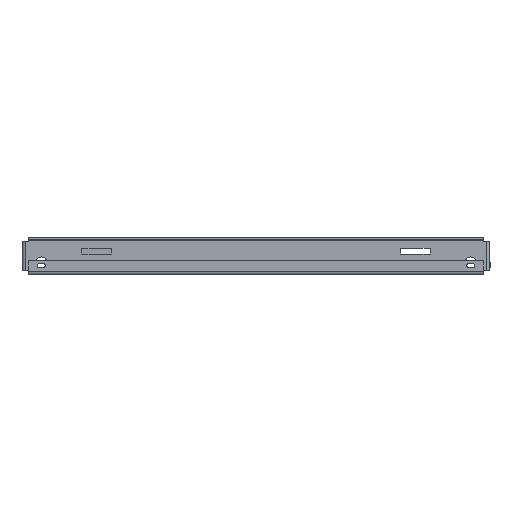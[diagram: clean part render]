
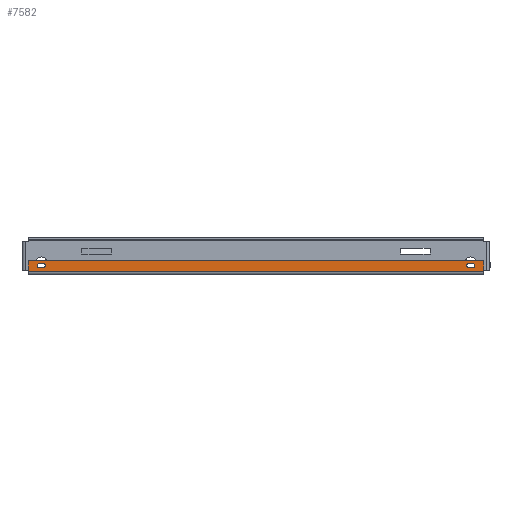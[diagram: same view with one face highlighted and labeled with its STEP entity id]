
A CAD part, front view. The second image highlights one B-rep face of the part: STEP entity #7582.
In plain terms, the highlighted planar face has unit normal (0, -1, 0) as drawn and (0, 0, -1) by its records, which use the part's own axes.
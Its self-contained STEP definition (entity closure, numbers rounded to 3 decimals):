
#18 = VECTOR ( 'NONE', #8006, 1000. ) ;
#30 = DIRECTION ( 'NONE',  ( 1., 0., 0. ) ) ;
#107 = VERTEX_POINT ( 'NONE', #2826 ) ;
#151 = CARTESIAN_POINT ( 'NONE',  ( 27.877, 48.984, 0. ) ) ;
#176 = CARTESIAN_POINT ( 'NONE',  ( 713.854, 48.984, 0. ) ) ;
#182 = VECTOR ( 'NONE', #1007, 1000. ) ;
#370 = CARTESIAN_POINT ( 'NONE',  ( 27.877, 48.984, 0. ) ) ;
#437 = ORIENTED_EDGE ( 'NONE', *, *, #1557, .T. ) ;
#494 = DIRECTION ( 'NONE',  ( 1., 0., 0. ) ) ;
#587 = CIRCLE ( 'NONE', #3493, 3.569 ) ;
#741 = VERTEX_POINT ( 'NONE', #5641 ) ;
#780 = FACE_BOUND ( 'NONE', #3291, .T. ) ;
#784 = CARTESIAN_POINT ( 'NONE',  ( 10.16, 60.147, 0. ) ) ;
#954 = EDGE_CURVE ( 'NONE', #8019, #6570, #4493, .T. ) ;
#1007 = DIRECTION ( 'NONE',  ( -1., 0., 0. ) ) ;
#1277 = VERTEX_POINT ( 'NONE', #6286 ) ;
#1406 = CIRCLE ( 'NONE', #4510, 3.569 ) ;
#1428 = LINE ( 'NONE', #2380, #4611 ) ;
#1485 = CARTESIAN_POINT ( 'NONE',  ( 27.877, 41.846, 0. ) ) ;
#1503 = VERTEX_POINT ( 'NONE', #151 ) ;
#1557 = EDGE_CURVE ( 'NONE', #741, #1628, #2348, .T. ) ;
#1614 = VERTEX_POINT ( 'NONE', #1485 ) ;
#1628 = VERTEX_POINT ( 'NONE', #4058 ) ;
#1629 = CARTESIAN_POINT ( 'NONE',  ( 719.417, 45.415, 0. ) ) ;
#1676 = DIRECTION ( 'NONE',  ( 0., 0., 1. ) ) ;
#1889 = LINE ( 'NONE', #784, #6765 ) ;
#1924 = PLANE ( 'NONE',  #4229 ) ;
#1967 = AXIS2_PLACEMENT_3D ( 'NONE', #3110, #7565, #3746 ) ;
#2064 = DIRECTION ( 'NONE',  ( -1., 0., 0. ) ) ;
#2181 = CIRCLE ( 'NONE', #5687, 3.569 ) ;
#2255 = DIRECTION ( 'NONE',  ( 1., 0., 0. ) ) ;
#2340 = VERTEX_POINT ( 'NONE', #7207 ) ;
#2348 = LINE ( 'NONE', #176, #3841 ) ;
#2380 = CARTESIAN_POINT ( 'NONE',  ( 713.854, 41.846, 0. ) ) ;
#2417 = EDGE_CURVE ( 'NONE', #4881, #8019, #2731, .T. ) ;
#2526 = DIRECTION ( 'NONE',  ( 0., 0., 1. ) ) ;
#2527 = CARTESIAN_POINT ( 'NONE',  ( 747.293, 60.147, 0. ) ) ;
#2581 = ORIENTED_EDGE ( 'NONE', *, *, #4302, .T. ) ;
#2669 = FACE_BOUND ( 'NONE', #6866, .T. ) ;
#2698 = ORIENTED_EDGE ( 'NONE', *, *, #2770, .T. ) ;
#2731 = LINE ( 'NONE', #3767, #7617 ) ;
#2770 = EDGE_CURVE ( 'NONE', #1614, #6378, #4273, .T. ) ;
#2779 = ORIENTED_EDGE ( 'NONE', *, *, #6774, .T. ) ;
#2794 = VERTEX_POINT ( 'NONE', #7324 ) ;
#2826 = CARTESIAN_POINT ( 'NONE',  ( 33.439, 48.984, 0. ) ) ;
#3046 = CARTESIAN_POINT ( 'NONE',  ( 713.854, 45.415, 0. ) ) ;
#3110 = CARTESIAN_POINT ( 'NONE',  ( 719.417, 45.415, 0. ) ) ;
#3227 = CARTESIAN_POINT ( 'NONE',  ( 719.417, 41.846, 0. ) ) ;
#3242 = CARTESIAN_POINT ( 'NONE',  ( 33.439, 41.846, 0. ) ) ;
#3291 = EDGE_LOOP ( 'NONE', ( #2779, #2581, #6995, #5405, #437 ) ) ;
#3409 = LINE ( 'NONE', #4193, #18 ) ;
#3493 = AXIS2_PLACEMENT_3D ( 'NONE', #7660, #3842, #30 ) ;
#3562 = EDGE_CURVE ( 'NONE', #4683, #1277, #7142, .T. ) ;
#3581 = EDGE_CURVE ( 'NONE', #107, #1503, #5670, .T. ) ;
#3689 = DIRECTION ( 'NONE',  ( 1., 0., 0. ) ) ;
#3746 = DIRECTION ( 'NONE',  ( 1., 0., 0. ) ) ;
#3767 = CARTESIAN_POINT ( 'NONE',  ( 737.133, 60.147, 0. ) ) ;
#3832 = DIRECTION ( 'NONE',  ( 0., 1., 0. ) ) ;
#3841 = VECTOR ( 'NONE', #7154, 1000. ) ;
#3842 = DIRECTION ( 'NONE',  ( 0., 0., 1. ) ) ;
#4058 = CARTESIAN_POINT ( 'NONE',  ( 713.854, 48.984, 0. ) ) ;
#4113 = DIRECTION ( 'NONE',  ( 1., 0., 0. ) ) ;
#4161 = FACE_OUTER_BOUND ( 'NONE', #7564, .T. ) ;
#4193 = CARTESIAN_POINT ( 'NONE',  ( 747.293, 54.864, 0. ) ) ;
#4229 = AXIS2_PLACEMENT_3D ( 'NONE', #2527, #7641, #3832 ) ;
#4273 = LINE ( 'NONE', #7299, #5778 ) ;
#4302 = EDGE_CURVE ( 'NONE', #2340, #4683, #1428, .T. ) ;
#4412 = ORIENTED_EDGE ( 'NONE', *, *, #7362, .T. ) ;
#4464 = ORIENTED_EDGE ( 'NONE', *, *, #5751, .T. ) ;
#4493 = LINE ( 'NONE', #6530, #6208 ) ;
#4510 = AXIS2_PLACEMENT_3D ( 'NONE', #6341, #2526, #6978 ) ;
#4611 = VECTOR ( 'NONE', #494, 1000. ) ;
#4683 = VERTEX_POINT ( 'NONE', #3227 ) ;
#4759 = CIRCLE ( 'NONE', #6314, 3.569 ) ;
#4881 = VERTEX_POINT ( 'NONE', #7884 ) ;
#4936 = CARTESIAN_POINT ( 'NONE',  ( 737.133, 37.49, 0. ) ) ;
#5201 = CIRCLE ( 'NONE', #1967, 3.569 ) ;
#5233 = ORIENTED_EDGE ( 'NONE', *, *, #8161, .T. ) ;
#5405 = ORIENTED_EDGE ( 'NONE', *, *, #5706, .T. ) ;
#5494 = CARTESIAN_POINT ( 'NONE',  ( 27.877, 45.415, 0. ) ) ;
#5506 = ORIENTED_EDGE ( 'NONE', *, *, #8227, .T. ) ;
#5513 = EDGE_CURVE ( 'NONE', #4881, #5661, #3409, .T. ) ;
#5641 = CARTESIAN_POINT ( 'NONE',  ( 719.417, 48.984, 0. ) ) ;
#5661 = VERTEX_POINT ( 'NONE', #7501 ) ;
#5670 = LINE ( 'NONE', #370, #182 ) ;
#5687 = AXIS2_PLACEMENT_3D ( 'NONE', #5494, #1676, #6130 ) ;
#5706 = EDGE_CURVE ( 'NONE', #1277, #741, #5201, .T. ) ;
#5751 = EDGE_CURVE ( 'NONE', #2794, #107, #1406, .T. ) ;
#5778 = VECTOR ( 'NONE', #4113, 1000. ) ;
#6066 = CARTESIAN_POINT ( 'NONE',  ( 10.16, 37.49, 0. ) ) ;
#6077 = DIRECTION ( 'NONE',  ( 0., 0., 1. ) ) ;
#6130 = DIRECTION ( 'NONE',  ( 1., 0., 0. ) ) ;
#6208 = VECTOR ( 'NONE', #2064, 1000. ) ;
#6286 = CARTESIAN_POINT ( 'NONE',  ( 722.986, 45.415, 0. ) ) ;
#6314 = AXIS2_PLACEMENT_3D ( 'NONE', #3046, #7500, #3689 ) ;
#6341 = CARTESIAN_POINT ( 'NONE',  ( 33.439, 45.415, 0. ) ) ;
#6378 = VERTEX_POINT ( 'NONE', #3242 ) ;
#6490 = ORIENTED_EDGE ( 'NONE', *, *, #3581, .T. ) ;
#6523 = DIRECTION ( 'NONE',  ( 0., 1., 0. ) ) ;
#6530 = CARTESIAN_POINT ( 'NONE',  ( 747.293, 37.49, 0. ) ) ;
#6570 = VERTEX_POINT ( 'NONE', #6066 ) ;
#6765 = VECTOR ( 'NONE', #6523, 1000. ) ;
#6774 = EDGE_CURVE ( 'NONE', #1628, #2340, #4759, .T. ) ;
#6866 = EDGE_LOOP ( 'NONE', ( #4412, #2698, #5233, #4464, #6490 ) ) ;
#6978 = DIRECTION ( 'NONE',  ( 1., 0., 0. ) ) ;
#6995 = ORIENTED_EDGE ( 'NONE', *, *, #3562, .T. ) ;
#7022 = ORIENTED_EDGE ( 'NONE', *, *, #954, .T. ) ;
#7142 = CIRCLE ( 'NONE', #7385, 3.569 ) ;
#7154 = DIRECTION ( 'NONE',  ( -1., 0., 0. ) ) ;
#7207 = CARTESIAN_POINT ( 'NONE',  ( 713.854, 41.846, 0. ) ) ;
#7299 = CARTESIAN_POINT ( 'NONE',  ( 27.877, 41.846, 0. ) ) ;
#7324 = CARTESIAN_POINT ( 'NONE',  ( 37.008, 45.415, 0. ) ) ;
#7362 = EDGE_CURVE ( 'NONE', #1503, #1614, #2181, .T. ) ;
#7385 = AXIS2_PLACEMENT_3D ( 'NONE', #1629, #6077, #2255 ) ;
#7456 = ORIENTED_EDGE ( 'NONE', *, *, #5513, .F. ) ;
#7500 = DIRECTION ( 'NONE',  ( 0., 0., 1. ) ) ;
#7501 = CARTESIAN_POINT ( 'NONE',  ( 10.16, 54.864, 0. ) ) ;
#7564 = EDGE_LOOP ( 'NONE', ( #8105, #7022, #5506, #7456 ) ) ;
#7565 = DIRECTION ( 'NONE',  ( 0., 0., 1. ) ) ;
#7582 = ADVANCED_FACE ( 'NONE', ( #780, #2669, #4161 ), #1924, .T. ) ;
#7590 = DIRECTION ( 'NONE',  ( 0., -1., 0. ) ) ;
#7617 = VECTOR ( 'NONE', #7590, 1000. ) ;
#7641 = DIRECTION ( 'NONE',  ( 0., 0., -1. ) ) ;
#7660 = CARTESIAN_POINT ( 'NONE',  ( 33.439, 45.415, 0. ) ) ;
#7884 = CARTESIAN_POINT ( 'NONE',  ( 737.133, 54.864, 0. ) ) ;
#8006 = DIRECTION ( 'NONE',  ( -1., 0., 0. ) ) ;
#8019 = VERTEX_POINT ( 'NONE', #4936 ) ;
#8105 = ORIENTED_EDGE ( 'NONE', *, *, #2417, .T. ) ;
#8161 = EDGE_CURVE ( 'NONE', #6378, #2794, #587, .T. ) ;
#8227 = EDGE_CURVE ( 'NONE', #6570, #5661, #1889, .T. ) ;
